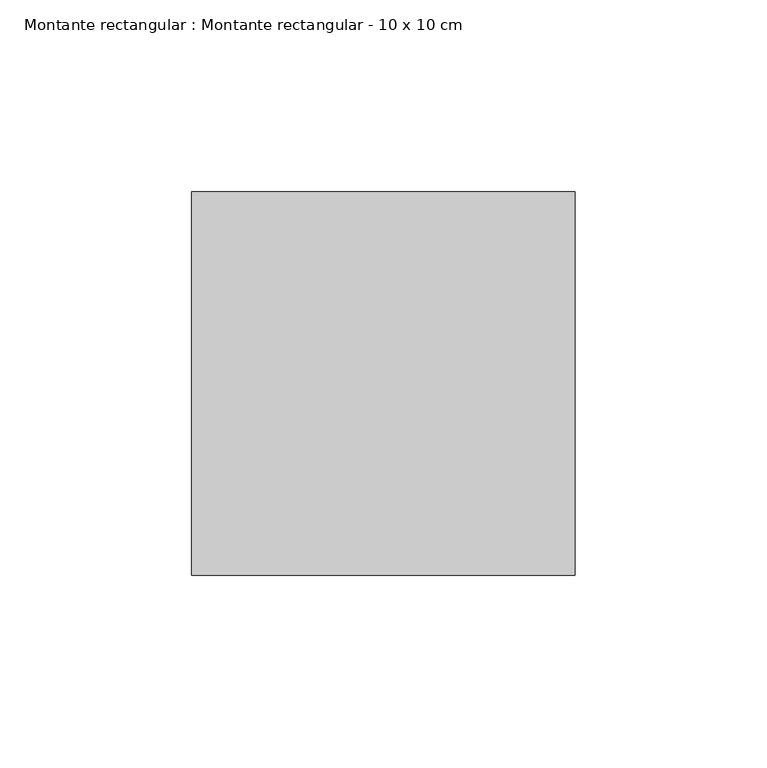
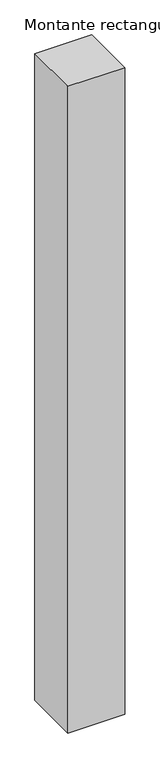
"""IFC4 building model written with IfcOpenShell, lengths in millimetres: member geometry, Montante rectangular : Montante rectangular - 10 x 10 cm."""

from ifc_helpers import new_model, si_unit, frame, origin, place, context, project, spatial, polyline, outline, extrude, source, transform, mapped, element, save


def montante_rectangular_montante_rectangular_10_x_10_cm_fdc269ba(model_context):
    return source(origin(), model_context, "Body", "SweptSolid", [
        extrude(outline(polyline([(-100.0, -50.0), (-100.0, 50.0), (0.0, 50.0), (0.0, -50.0), (-100.0, -50.0)])), frame((0.0, 0.0, -1200.0), z_axis=(0.0, 0.0, 1.0), x_axis=(1.0, 0.0, 0.0)), (0.0, 0.0, 1.0), 1200.0),
    ])


if __name__ == "__main__":
    model = new_model("IFC4")
    model_context = context("Model", 3, world=origin())
    ifc_project = project(units=[si_unit("LENGTHUNIT", "METRE", prefix="MILLI")], contexts=[model_context])
    site = spatial("IfcSite", under=ifc_project)
    building = spatial("IfcBuilding", under=site)
    placement = place(None, origin())
    montante_rectangular_montante_rectangular_10_x_10_cm_shape = montante_rectangular_montante_rectangular_10_x_10_cm_fdc269ba(model_context)
    element("IfcMember", 1, ObjectType="Montante rectangular : Montante rectangular - 10 x 10 cm", at=placement, inside=building, context=model_context, shape_type="MappedRepresentation", body=[
        mapped(montante_rectangular_montante_rectangular_10_x_10_cm_shape, transform((0.0, 0.0, 0.0), x_axis=(1.0, 0.0, 0.0), y_axis=(0.0, 1.0, 0.0), z_axis=(0.0, 0.0, 1.0))),
    ])
    save(model, "model.ifc")
